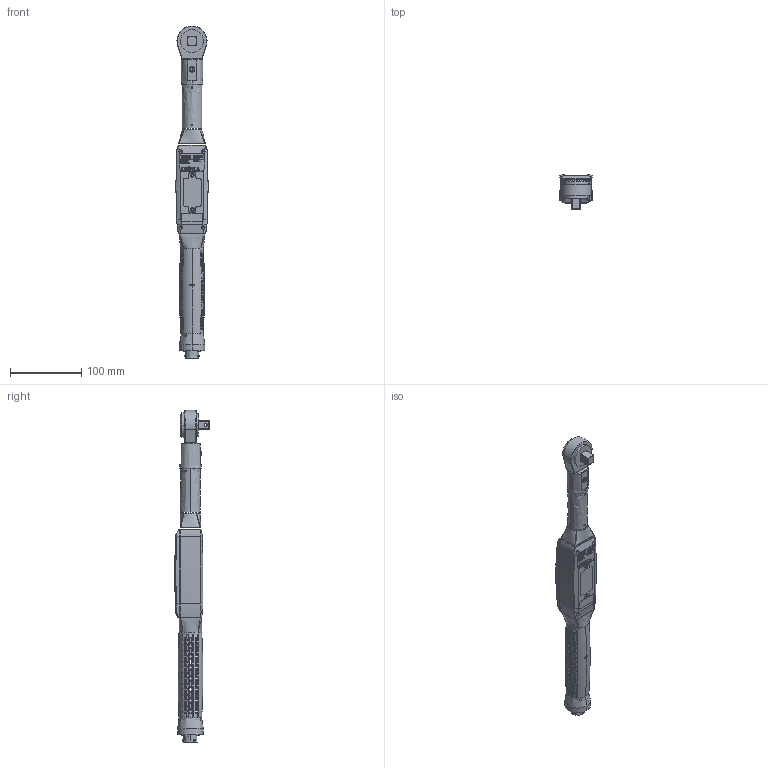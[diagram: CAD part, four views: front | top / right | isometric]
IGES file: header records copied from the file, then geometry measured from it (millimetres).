
Start section:  PTC IGES file: 6152210410_dim.igs
Global section: file name: 6152210410_dim.igs; native system: Creo Parametric by PTC Inc.; preprocessor: 2021072; author: S00000450; organization: Unknown; date: 20211206.161050; units: millimetre
Bounding box: 45.16 x 48.55 x 467.2 mm (x, y, z)
Surface area: 59851.3 mm2 (no closed solid volume)
Topology: 0 solids, 0 shells, 632 faces, 6957 edges, 6942 vertices
Faces by surface type: revolution 327, bspline 296, extrusion 9
